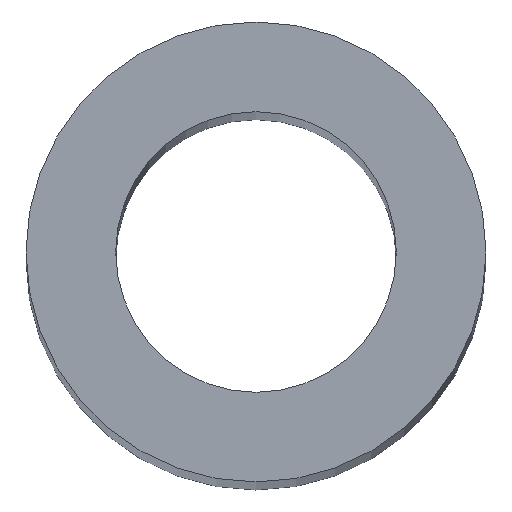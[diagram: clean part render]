
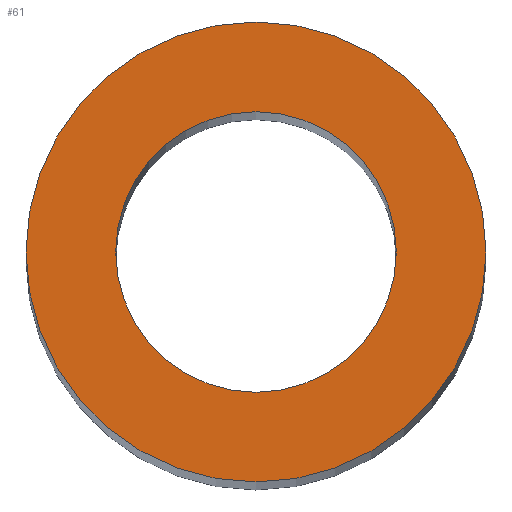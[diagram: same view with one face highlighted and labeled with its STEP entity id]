
A CAD part, top view. The second image highlights one B-rep face of the part: STEP entity #61.
In plain terms, the highlighted planar face has unit normal (0, 0, 1).
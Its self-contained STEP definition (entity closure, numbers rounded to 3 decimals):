
#21=FACE_BOUND('',#28,.T.);
#23=FACE_OUTER_BOUND('',#27,.T.);
#27=EDGE_LOOP('',(#47));
#28=EDGE_LOOP('',(#48));
#33=CIRCLE('',#80,15.);
#34=CIRCLE('',#81,9.15);
#37=VERTEX_POINT('',#109);
#38=VERTEX_POINT('',#111);
#41=EDGE_CURVE('',#37,#37,#33,.T.);
#42=EDGE_CURVE('',#38,#38,#34,.T.);
#47=ORIENTED_EDGE('',*,*,#41,.F.);
#48=ORIENTED_EDGE('',*,*,#42,.F.);
#59=PLANE('',#79);
#61=ADVANCED_FACE('',(#23,#21),#59,.T.);
#79=AXIS2_PLACEMENT_3D('',#108,#89,#90);
#80=AXIS2_PLACEMENT_3D('',#110,#91,#92);
#81=AXIS2_PLACEMENT_3D('',#112,#93,#94);
#89=DIRECTION('center_axis',(0.,0.,1.));
#90=DIRECTION('ref_axis',(1.,0.,0.));
#91=DIRECTION('center_axis',(0.,0.,-1.));
#92=DIRECTION('ref_axis',(1.,0.,0.));
#93=DIRECTION('center_axis',(0.,0.,1.));
#94=DIRECTION('ref_axis',(1.,0.,0.));
#108=CARTESIAN_POINT('Origin',(0.,0.,300.));
#109=CARTESIAN_POINT('',(-15.,0.,300.));
#110=CARTESIAN_POINT('Origin',(0.,0.,300.));
#111=CARTESIAN_POINT('',(-9.15,0.,300.));
#112=CARTESIAN_POINT('Origin',(0.,0.,300.));
